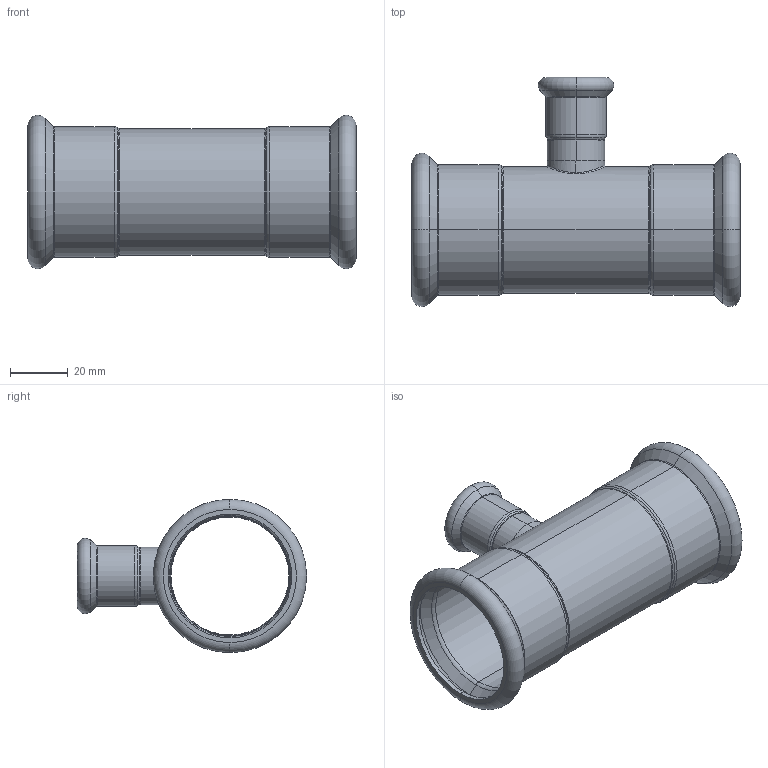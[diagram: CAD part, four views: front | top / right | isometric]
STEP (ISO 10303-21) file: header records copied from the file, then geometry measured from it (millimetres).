
FILE_DESCRIPTION (( 'STEP AP203' ), '1' );
FILE_NAME ('GDA5202.STEP', '2019-01-12T05:49:22', ( '' ), ( '' ), 'SwSTEP 2.0', 'SolidWorks 2015', '' );
FILE_SCHEMA (( 'CONFIG_CONTROL_DESIGN' ));
Length unit declared in the file: millimetre
Products named in the file (3): GDA5202; T(R)-¢ñ-42¡Á18''; T-ｉ-01-18
Assembly tree (2 placements, depth 2):
  GDA5202
    T(R)-¢ñ-42¡Á18''
    T-ｉ-01-18
Bounding box: 114 x 79.64 x 53.29 mm (x, y, z)
Volume: 28302.7 mm3; surface area: 38415 mm2
Topology: 2 solids, 2 shells, 114 faces, 234 edges, 128 vertices
Faces by surface type: torus 48, cylinder 30, cone 24, plane 8, bspline 4
Entity records: 4248 total; most frequent: CARTESIAN_POINT 1458, DIRECTION 620, ORIENTED_EDGE 468, AXIS2_PLACEMENT_3D 283, EDGE_CURVE 234, CIRCLE 168, VERTEX_POINT 128, EDGE_LOOP 124
